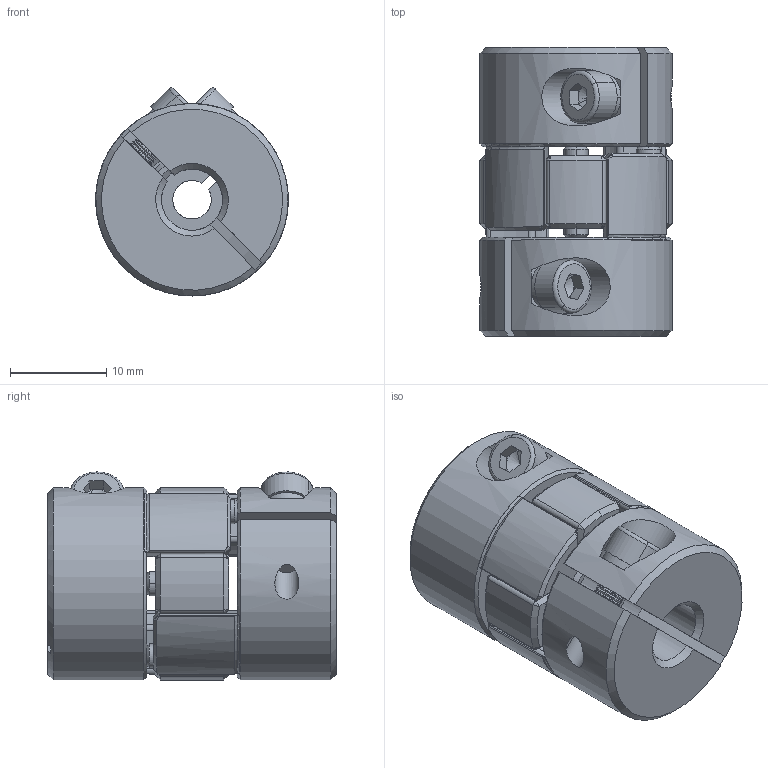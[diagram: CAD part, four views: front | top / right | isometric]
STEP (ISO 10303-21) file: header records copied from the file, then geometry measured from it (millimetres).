
FILE_DESCRIPTION (( 'STEP AP203' ), '1' );
FILE_NAME ('LF-B-D20L30-4-6.35.STEP', '2021-10-27T02:39:47', ( '' ), ( '' ), 'SwSTEP 2.0', 'SolidWorks 2018', '' );
FILE_SCHEMA (( 'CONFIG_CONTROL_DESIGN' ));
Length unit declared in the file: millimetre
Products named in the file (1): LF-B-D20L30-4-6.35
Bounding box: 20 x 30 x 21.62 mm (x, y, z)
Volume: 7849.9 mm3; surface area: 4892.2 mm2
Topology: 1 solids, 1 shells, 518 faces, 1253 edges, 691 vertices
Faces by surface type: cone 252, cylinder 192, plane 62, torus 12
Entity records: 15024 total; most frequent: CARTESIAN_POINT 2904, DIRECTION 2742, ORIENTED_EDGE 2426, EDGE_CURVE 1213, AXIS2_PLACEMENT_3D 1107, VERTEX_POINT 691, CIRCLE 588, EDGE_LOOP 546
